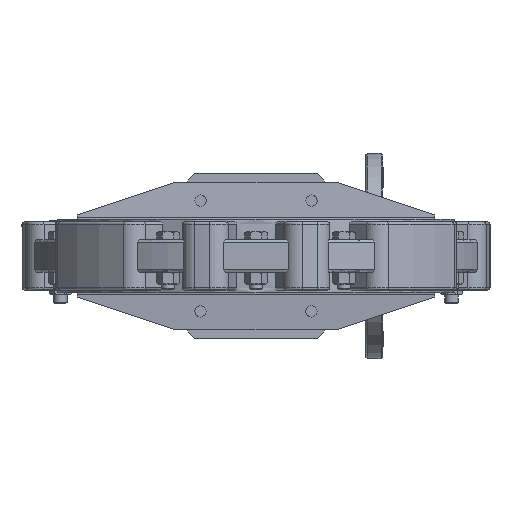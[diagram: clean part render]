
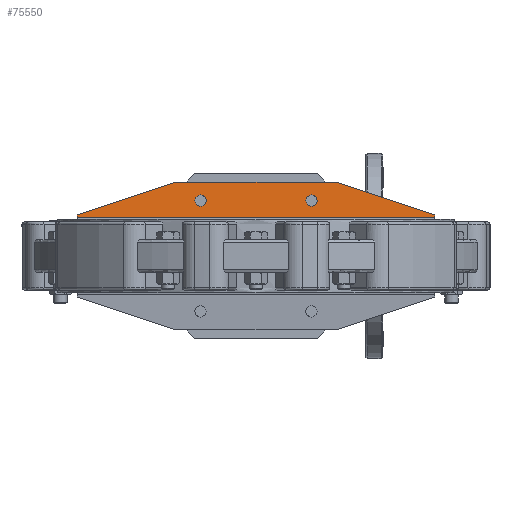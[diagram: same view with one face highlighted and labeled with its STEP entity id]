
A CAD part, front view. The second image highlights one B-rep face of the part: STEP entity #75550.
In plain terms, the highlighted planar face has unit normal (0, -0.998, 0.07).
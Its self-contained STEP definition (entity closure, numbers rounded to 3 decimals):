
#874=ELLIPSE('',#81397,6.934,6.918);
#875=ELLIPSE('',#81398,6.934,6.918);
#876=ELLIPSE('',#81399,6.934,6.918);
#877=ELLIPSE('',#81400,6.934,6.918);
#7192=FACE_BOUND('',#16415,.T.);
#7193=FACE_BOUND('',#16416,.T.);
#8662=PLANE('',#81396);
#11934=FACE_OUTER_BOUND('',#16414,.T.);
#16414=EDGE_LOOP('',(#62231,#62232,#62233,#62234,#62235,#62236));
#16415=EDGE_LOOP('',(#62237,#62238));
#16416=EDGE_LOOP('',(#62239,#62240));
#21308=LINE('',#204625,#26769);
#21309=LINE('',#204669,#26770);
#21310=LINE('',#204671,#26771);
#21311=LINE('',#204673,#26772);
#21312=LINE('',#204675,#26773);
#21313=LINE('',#204676,#26774);
#26769=VECTOR('',#94579,10.);
#26770=VECTOR('',#94584,10.);
#26771=VECTOR('',#94585,10.);
#26772=VECTOR('',#94586,10.);
#26773=VECTOR('',#94587,10.);
#26774=VECTOR('',#94588,10.);
#36545=VERTEX_POINT('',#204618);
#36548=VERTEX_POINT('',#204623);
#36557=VERTEX_POINT('',#204668);
#36558=VERTEX_POINT('',#204670);
#36559=VERTEX_POINT('',#204672);
#36560=VERTEX_POINT('',#204674);
#36561=VERTEX_POINT('',#204677);
#36562=VERTEX_POINT('',#204678);
#36563=VERTEX_POINT('',#204681);
#36564=VERTEX_POINT('',#204682);
#45757=EDGE_CURVE('',#36548,#36545,#21308,.T.);
#45766=EDGE_CURVE('',#36548,#36557,#21309,.T.);
#45767=EDGE_CURVE('',#36558,#36557,#21310,.F.);
#45768=EDGE_CURVE('',#36558,#36559,#21311,.T.);
#45769=EDGE_CURVE('',#36559,#36560,#21312,.T.);
#45770=EDGE_CURVE('',#36545,#36560,#21313,.F.);
#45771=EDGE_CURVE('',#36561,#36562,#874,.T.);
#45772=EDGE_CURVE('',#36562,#36561,#875,.T.);
#45773=EDGE_CURVE('',#36563,#36564,#876,.T.);
#45774=EDGE_CURVE('',#36564,#36563,#877,.T.);
#62231=ORIENTED_EDGE('',*,*,#45757,.F.);
#62232=ORIENTED_EDGE('',*,*,#45766,.T.);
#62233=ORIENTED_EDGE('',*,*,#45767,.F.);
#62234=ORIENTED_EDGE('',*,*,#45768,.T.);
#62235=ORIENTED_EDGE('',*,*,#45769,.T.);
#62236=ORIENTED_EDGE('',*,*,#45770,.F.);
#62237=ORIENTED_EDGE('',*,*,#45771,.T.);
#62238=ORIENTED_EDGE('',*,*,#45772,.T.);
#62239=ORIENTED_EDGE('',*,*,#45773,.T.);
#62240=ORIENTED_EDGE('',*,*,#45774,.T.);
#75550=ADVANCED_FACE('',(#11934,#7192,#7193),#8662,.T.);
#81396=AXIS2_PLACEMENT_3D('',#204667,#94582,#94583);
#81397=AXIS2_PLACEMENT_3D('',#204679,#94589,#94590);
#81398=AXIS2_PLACEMENT_3D('',#204680,#94591,#94592);
#81399=AXIS2_PLACEMENT_3D('',#204683,#94593,#94594);
#81400=AXIS2_PLACEMENT_3D('',#204684,#94595,#94596);
#94579=DIRECTION('',(-1.,0.,0.));
#94582=DIRECTION('center_axis',(0.,-0.998,
0.07));
#94583=DIRECTION('ref_axis',(0.,-0.07,-0.998));
#94584=DIRECTION('',(0.,0.07,0.998));
#94585=DIRECTION('',(-0.948,0.022,0.316));
#94586=DIRECTION('',(-1.,0.,0.));
#94587=DIRECTION('',(-0.948,-0.022,-0.316));
#94588=DIRECTION('',(0.,-0.07,-0.998));
#94589=DIRECTION('center_axis',(0.,0.998,
-0.07));
#94590=DIRECTION('ref_axis',(0.,-0.07,-0.998));
#94591=DIRECTION('center_axis',(0.,0.998,
-0.07));
#94592=DIRECTION('ref_axis',(0.,-0.07,-0.998));
#94593=DIRECTION('center_axis',(0.,0.998,
-0.07));
#94594=DIRECTION('ref_axis',(0.,-0.07,-0.998));
#94595=DIRECTION('center_axis',(0.,0.998,
-0.07));
#94596=DIRECTION('ref_axis',(0.,-0.07,-0.998));
#204618=CARTESIAN_POINT('',(-217.5,357.99,46.954));
#204623=CARTESIAN_POINT('',(217.5,357.99,46.954));
#204625=CARTESIAN_POINT('',(0.,357.99,46.954));
#204667=CARTESIAN_POINT('Origin',(0.,359.007,
61.5));
#204668=CARTESIAN_POINT('',(217.5,358.203,50.));
#204669=CARTESIAN_POINT('',(217.5,356.938,31.908));
#204670=CARTESIAN_POINT('',(97.5,361.,90.));
#204671=CARTESIAN_POINT('',(117.628,360.531,83.291));
#204672=CARTESIAN_POINT('',(-97.5,361.,90.));
#204673=CARTESIAN_POINT('',(-97.5,361.,90.));
#204674=CARTESIAN_POINT('',(-217.5,358.203,50.));
#204675=CARTESIAN_POINT('',(-57.657,361.929,103.281));
#204676=CARTESIAN_POINT('',(-217.5,358.678,56.787));
#204677=CARTESIAN_POINT('',(-67.5,359.91,74.417));
#204678=CARTESIAN_POINT('',(-74.418,359.427,67.5));
#204679=CARTESIAN_POINT('Origin',(-67.5,359.427,67.5));
#204680=CARTESIAN_POINT('Origin',(-67.5,359.427,67.5));
#204681=CARTESIAN_POINT('',(67.5,359.91,74.418));
#204682=CARTESIAN_POINT('',(60.582,359.427,67.5));
#204683=CARTESIAN_POINT('Origin',(67.5,359.427,67.5));
#204684=CARTESIAN_POINT('Origin',(67.5,359.427,67.5));
